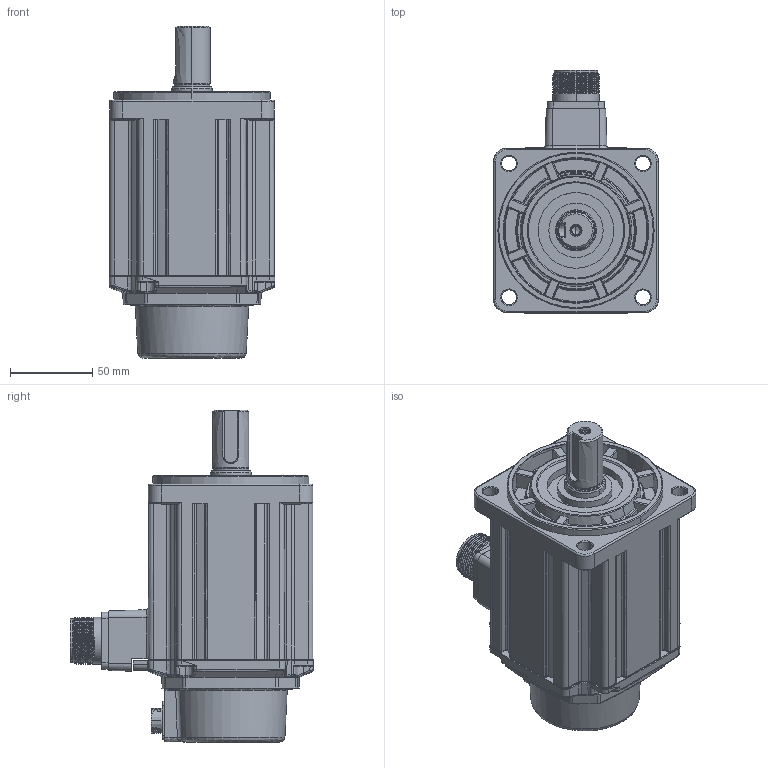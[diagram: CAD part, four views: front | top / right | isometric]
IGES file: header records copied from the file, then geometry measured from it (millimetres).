
Start section:  PTC IGES file: ECM-B3M-CX1015RS1.igs
Global section: file name: ECM-B3M-CX1015RS1.igs; native system: Creo Parametric by PTC Inc.; preprocessor: 2020454; author: CHHSU.HSU; organization: Unknown; date: 20220520.140832; units: inch
Bounding box: 100.74 x 147.77 x 201.8 mm (x, y, z)
Surface area: 114135.6 mm2 (no closed solid volume)
Topology: 0 solids, 0 shells, 2053 faces, 11234 edges, 11180 vertices
Faces by surface type: revolution 1045, bspline 1008
